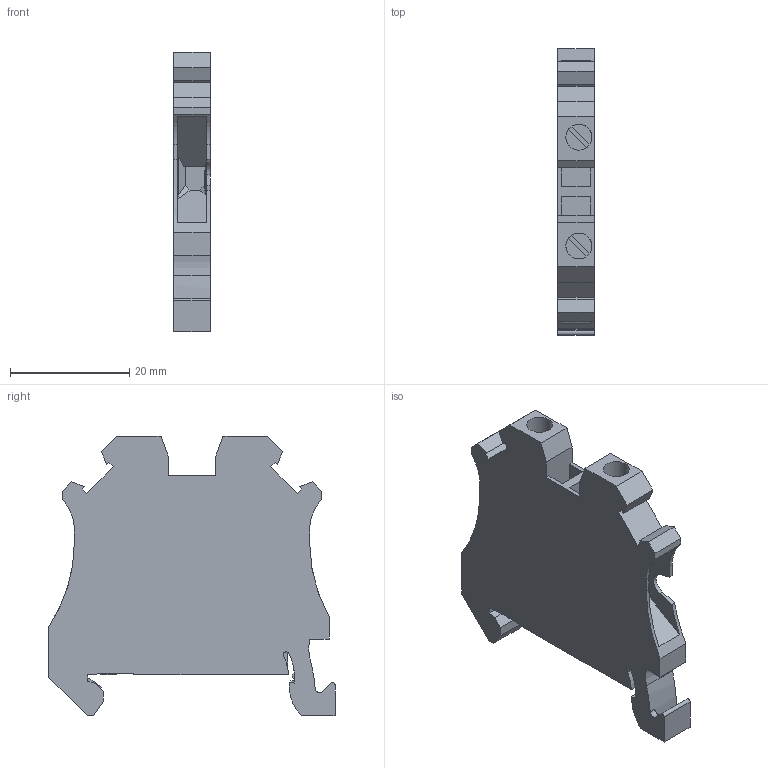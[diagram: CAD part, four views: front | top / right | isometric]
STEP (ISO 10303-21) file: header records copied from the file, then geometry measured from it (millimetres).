
FILE_DESCRIPTION( ('This file contains a STEP AP42 implementation' ,'as created by ZW3D STEP Interface translator.') ,'2;1' );
FILE_NAME( 'RUT4-PE.stp' ,'23 6 9.16 423', (''), ('ZWCAD Software Co.'), 'Version 1.0', 'ZW3D to STEP translator', '' );
FILE_SCHEMA(('AUTOMOTIVE_DESIGN { 1 0 10303 214 1 1 1 1 }'));
Length unit declared in the file: millimetre
Products named in the file (2): 0; 3044128
Bounding box: 6.15 x 48 x 46.85 mm (x, y, z)
Volume: 8488.4 mm3; surface area: 5610.4 mm2
Topology: 1 solids, 1 shells, 170 faces, 490 edges, 324 vertices
Faces by surface type: plane 139, cylinder 31
Full cylindrical faces by diameter (mm): 4.35 x2
Entity records: 5753 total; most frequent: CARTESIAN_POINT 1021, ORIENTED_EDGE 980, DIRECTION 895, EDGE_CURVE 490, VECTOR 403, LINE 403, VERTEX_POINT 324, AXIS2_PLACEMENT_3D 246
